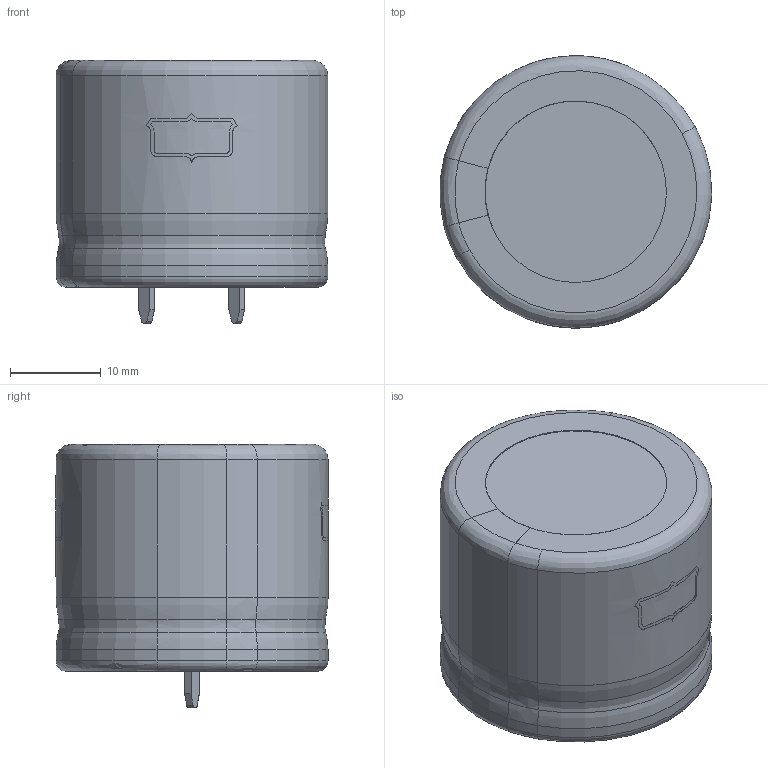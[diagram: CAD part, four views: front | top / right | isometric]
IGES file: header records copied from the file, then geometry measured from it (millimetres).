
Start section: START RECORD GO HERE.
Global section: file name: E-SNAP-IN_D30_L25__VSN_SLEEVE_STRUCTURE.igs; native system: DASSAULT SYSTEMES CATIA Version 5-6 Release 2016 - www.3ds.com; preprocessor: V5-6R2016_5.26.6.0.02-14-2018.20.00; author: vmcad10; organization: GIANT; date: 20210115.150448; units: millimetre
Bounding box: 29.93 x 30 x 29 mm (x, y, z)
Surface area: 4425.6 mm2 (no closed solid volume)
Topology: 0 solids, 0 shells, 291 faces, 1536 edges, 1536 vertices
Faces by surface type: plane 181, revolution 102, bspline 8
